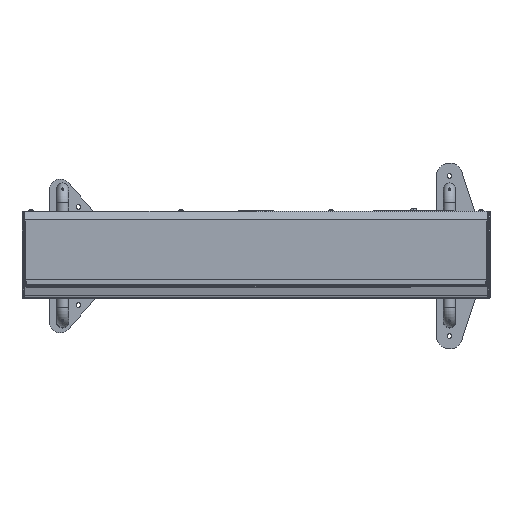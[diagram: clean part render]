
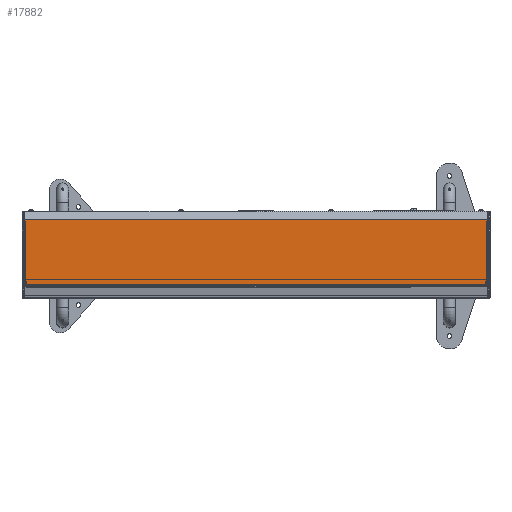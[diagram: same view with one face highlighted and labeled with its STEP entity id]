
A CAD part, top view. The second image highlights one B-rep face of the part: STEP entity #17882.
In plain terms, the highlighted planar face has unit normal (0, 0, 1) as drawn and (0, 1, 0) by its records, which use the part's own axes.
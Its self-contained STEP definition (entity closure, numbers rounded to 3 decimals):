
#1636=LINE('',#28794,#3069);
#1637=LINE('',#28798,#3070);
#1642=LINE('',#28810,#3075);
#1643=LINE('',#28812,#3076);
#1652=LINE('',#28829,#3085);
#1653=LINE('',#28831,#3086);
#1654=LINE('',#28833,#3087);
#1655=LINE('',#28834,#3088);
#3069=VECTOR('',#22964,1000.);
#3070=VECTOR('',#22969,1000.);
#3075=VECTOR('',#22982,1000.);
#3076=VECTOR('',#22985,1000.);
#3085=VECTOR('',#23000,1000.);
#3086=VECTOR('',#23003,1000.);
#3087=VECTOR('',#23004,1000.);
#3088=VECTOR('',#23005,1000.);
#5351=ORIENTED_EDGE('',*,*,#9631,.F.);
#5352=ORIENTED_EDGE('',*,*,#9632,.T.);
#5353=ORIENTED_EDGE('',*,*,#9633,.F.);
#5354=ORIENTED_EDGE('',*,*,#9615,.T.);
#5355=ORIENTED_EDGE('',*,*,#9621,.F.);
#5356=ORIENTED_EDGE('',*,*,#9634,.T.);
#5357=ORIENTED_EDGE('',*,*,#9622,.F.);
#5358=ORIENTED_EDGE('',*,*,#9613,.T.);
#9613=EDGE_CURVE('',#11910,#11914,#1636,.T.);
#9615=EDGE_CURVE('',#11912,#11909,#1637,.T.);
#9621=EDGE_CURVE('',#11917,#11909,#1642,.T.);
#9622=EDGE_CURVE('',#11910,#11918,#1643,.T.);
#9631=EDGE_CURVE('',#11922,#11914,#1652,.T.);
#9632=EDGE_CURVE('',#11922,#11923,#1653,.T.);
#9633=EDGE_CURVE('',#11912,#11923,#1654,.T.);
#9634=EDGE_CURVE('',#11917,#11918,#1655,.T.);
#11909=VERTEX_POINT('',#28776);
#11910=VERTEX_POINT('',#28780);
#11912=VERTEX_POINT('',#28789);
#11914=VERTEX_POINT('',#28795);
#11917=VERTEX_POINT('',#28809);
#11918=VERTEX_POINT('',#28813);
#11922=VERTEX_POINT('',#28828);
#11923=VERTEX_POINT('',#28832);
#14423=EDGE_LOOP('',(#5351,#5352,#5353,#5354,#5355,#5356,#5357,#5358));
#15999=FACE_BOUND('',#14423,.T.);
#17112=PLANE('',#20340);
#17882=ADVANCED_FACE('',(#15999),#17112,.F.);
#20340=AXIS2_PLACEMENT_3D('',#28830,#23001,#23002);
#22964=DIRECTION('',(0.,0.,1.));
#22969=DIRECTION('',(0.,0.,-1.));
#22982=DIRECTION('',(0.,0.,1.));
#22985=DIRECTION('',(0.,0.,-1.));
#23000=DIRECTION('',(0.,0.,-1.));
#23001=DIRECTION('',(0.,-1.,0.));
#23002=DIRECTION('',(0.,0.,-1.));
#23003=DIRECTION('',(1.,0.,0.));
#23004=DIRECTION('',(0.,0.,1.));
#23005=DIRECTION('',(-1.,0.,0.));
#28776=CARTESIAN_POINT('',(808.,114.688,-257.128));
#28780=CARTESIAN_POINT('',(-808.,114.688,-257.128));
#28789=CARTESIAN_POINT('',(808.,114.688,-28.511));
#28794=CARTESIAN_POINT('',(-808.,114.688,-257.128));
#28795=CARTESIAN_POINT('',(-808.,114.688,-28.511));
#28798=CARTESIAN_POINT('',(808.,114.688,-28.511));
#28809=CARTESIAN_POINT('',(808.,114.688,-257.13));
#28810=CARTESIAN_POINT('',(808.,114.688,-28.511));
#28812=CARTESIAN_POINT('',(-808.,114.688,-257.128));
#28813=CARTESIAN_POINT('',(-808.,114.688,-257.13));
#28828=CARTESIAN_POINT('',(-808.,114.688,-28.509));
#28829=CARTESIAN_POINT('',(-808.,114.688,-257.128));
#28830=CARTESIAN_POINT('',(810.,114.688,-27.726));
#28831=CARTESIAN_POINT('',(-810.,114.688,-28.509));
#28832=CARTESIAN_POINT('',(808.,114.688,-28.509));
#28833=CARTESIAN_POINT('',(808.,114.688,-28.511));
#28834=CARTESIAN_POINT('',(810.,114.688,-257.13));
